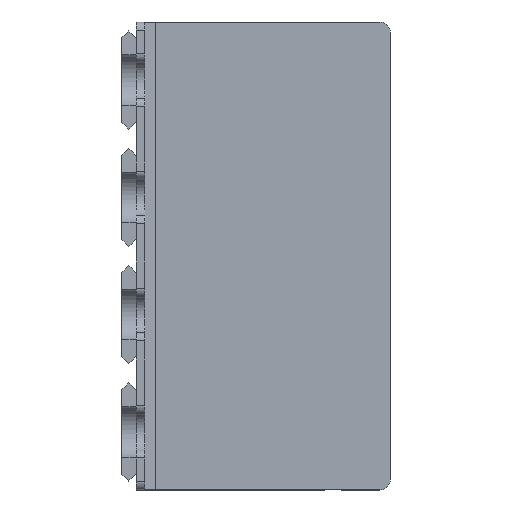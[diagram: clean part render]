
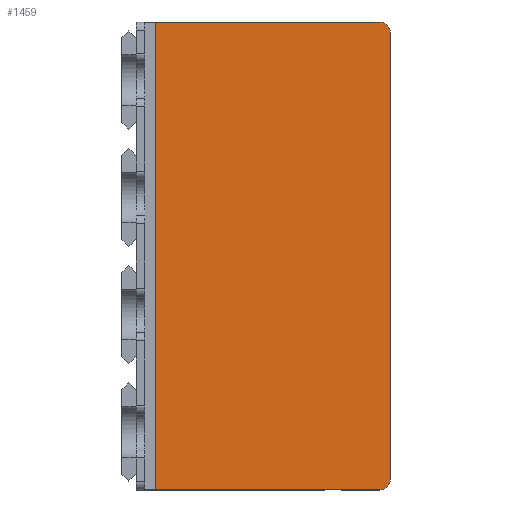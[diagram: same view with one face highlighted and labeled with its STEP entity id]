
A CAD part, top view. The second image highlights one B-rep face of the part: STEP entity #1459.
In plain terms, the highlighted planar face has unit normal (0, 0, 1).
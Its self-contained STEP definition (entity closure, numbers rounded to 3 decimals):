
#39=CIRCLE('',#1555,3.75);
#40=CIRCLE('',#1556,3.75);
#85=FACE_OUTER_BOUND('',#166,.T.);
#166=EDGE_LOOP('',(#989,#990,#991,#992,#993,#994));
#260=LINE('',#2124,#437);
#266=LINE('',#2136,#443);
#268=LINE('',#2140,#445);
#269=LINE('',#2144,#446);
#437=VECTOR('',#1694,10.);
#443=VECTOR('',#1704,10.);
#445=VECTOR('',#1708,10.);
#446=VECTOR('',#1711,10.);
#611=VERTEX_POINT('',#2121);
#612=VERTEX_POINT('',#2123);
#616=VERTEX_POINT('',#2134);
#617=VERTEX_POINT('',#2139);
#618=VERTEX_POINT('',#2141);
#619=VERTEX_POINT('',#2143);
#756=EDGE_CURVE('',#612,#611,#260,.T.);
#762=EDGE_CURVE('',#616,#611,#266,.T.);
#764=EDGE_CURVE('',#617,#616,#268,.T.);
#765=EDGE_CURVE('',#618,#617,#39,.T.);
#766=EDGE_CURVE('',#619,#618,#269,.T.);
#767=EDGE_CURVE('',#612,#619,#40,.T.);
#989=ORIENTED_EDGE('',*,*,#762,.F.);
#990=ORIENTED_EDGE('',*,*,#764,.F.);
#991=ORIENTED_EDGE('',*,*,#765,.F.);
#992=ORIENTED_EDGE('',*,*,#766,.F.);
#993=ORIENTED_EDGE('',*,*,#767,.F.);
#994=ORIENTED_EDGE('',*,*,#756,.T.);
#1398=PLANE('',#1554);
#1459=ADVANCED_FACE('',(#85),#1398,.F.);
#1554=AXIS2_PLACEMENT_3D('',#2138,#1706,#1707);
#1555=AXIS2_PLACEMENT_3D('',#2142,#1709,#1710);
#1556=AXIS2_PLACEMENT_3D('',#2145,#1712,#1713);
#1694=DIRECTION('',(-1.,0.,0.));
#1704=DIRECTION('',(0.,1.,0.));
#1706=DIRECTION('center_axis',(0.,0.,-1.));
#1707=DIRECTION('ref_axis',(1.,0.,0.));
#1708=DIRECTION('',(-1.,0.,0.));
#1709=DIRECTION('center_axis',(0.,0.,-1.));
#1710=DIRECTION('ref_axis',(0.707,-0.707,0.));
#1711=DIRECTION('',(0.,-1.,0.));
#1712=DIRECTION('center_axis',(0.,0.,-1.));
#1713=DIRECTION('ref_axis',(0.707,0.707,0.));
#2121=CARTESIAN_POINT('',(103.15,146.8,-107.478));
#2123=CARTESIAN_POINT('',(183.4,146.8,-107.478));
#2124=CARTESIAN_POINT('',(122.15,146.8,-107.478));
#2134=CARTESIAN_POINT('',(103.15,-20.8,-107.478));
#2136=CARTESIAN_POINT('',(103.15,31.5,-107.478));
#2138=CARTESIAN_POINT('Origin',(122.15,63.,-107.478));
#2139=CARTESIAN_POINT('',(183.4,-20.8,-107.478));
#2140=CARTESIAN_POINT('',(122.15,-20.8,-107.478));
#2141=CARTESIAN_POINT('',(187.15,-17.05,-107.478));
#2142=CARTESIAN_POINT('Origin',(183.4,-17.05,-107.478));
#2143=CARTESIAN_POINT('',(187.15,143.05,-107.478));
#2144=CARTESIAN_POINT('',(187.15,63.,-107.478));
#2145=CARTESIAN_POINT('Origin',(183.4,143.05,-107.478));
